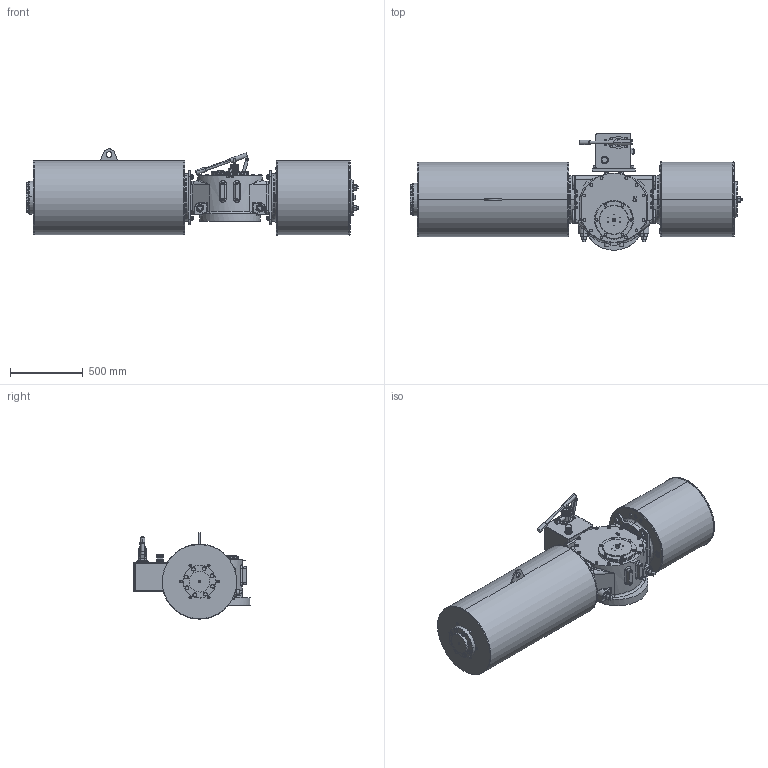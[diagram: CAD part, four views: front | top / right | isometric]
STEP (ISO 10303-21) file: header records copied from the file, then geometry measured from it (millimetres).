
FILE_DESCRIPTION (( 'STEP AP203' ), '1' );
FILE_NAME ('VTS5-500-SR-MH-FO.STEP', '2023-01-01T09:44:35', ( '' ), ( '' ), 'SwSTEP 2.0', 'SolidWorks 2020', '' );
FILE_SCHEMA (( 'CONFIG_CONTROL_DESIGN' ));
Length unit declared in the file: millimetre
Products named in the file (1): VTS5-500-SR-MH-FO
Bounding box: 2274 x 797.5 x 591 mm (x, y, z)
Volume: 390184023.3 mm3; surface area: 6212841.5 mm2
Topology: 52 solids, 54 shells, 3066 faces, 7673 edges, 4842 vertices
Faces by surface type: plane 1225, cylinder 1086, cone 656, bspline 99
Entity records: 105574 total; most frequent: CARTESIAN_POINT 32685, DIRECTION 15418, ORIENTED_EDGE 15138, EDGE_CURVE 7569, AXIS2_PLACEMENT_3D 6100, VERTEX_POINT 4842, EDGE_LOOP 3481, VECTOR 3218
